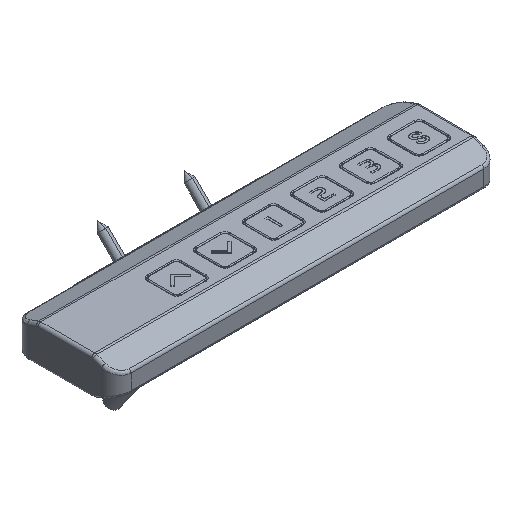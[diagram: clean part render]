
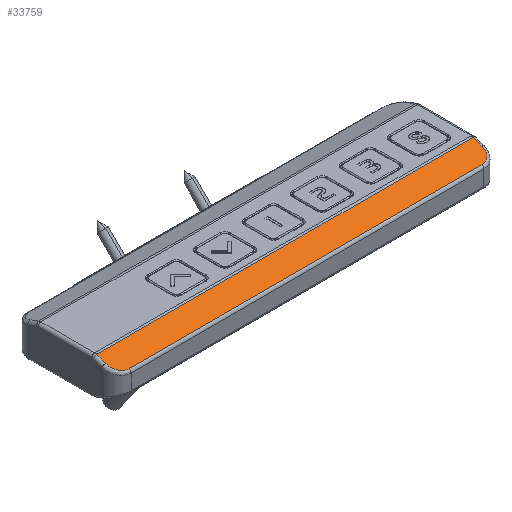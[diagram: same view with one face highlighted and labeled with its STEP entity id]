
A CAD part, isometric view. The second image highlights one B-rep face of the part: STEP entity #33759.
In plain terms, the highlighted planar face has unit normal (0, -0.351, 0.936).
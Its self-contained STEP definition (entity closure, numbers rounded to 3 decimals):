
#7658=DIRECTION('',(1.,0.,0.));
#7659=VECTOR('',#7658,120.);
#7660=CARTESIAN_POINT('',(-60.,-16.851,
12.243));
#7661=LINE('',#7660,#7659);
#7849=DIRECTION('',(0.,-0.936,-0.351));
#7850=VECTOR('',#7849,3.216);
#7851=CARTESIAN_POINT('',(64.,-9.84,14.873));
#7852=LINE('',#7851,#7850);
#7853=CARTESIAN_POINT('',(64.,-12.851,13.743));
#7854=CARTESIAN_POINT('',(64.,-13.36,13.552));
#7855=CARTESIAN_POINT('',(63.804,-14.38,13.17));
#7856=CARTESIAN_POINT('',(62.947,-15.707,12.672));
#7857=CARTESIAN_POINT('',(61.616,-16.629,12.327));
#7858=CARTESIAN_POINT('',(60.538,-16.851,12.243));
#7859=CARTESIAN_POINT('',(60.,-16.851,12.243));
#7861=CARTESIAN_POINT('',(-60.,-16.851,
12.243));
#7862=CARTESIAN_POINT('',(-60.538,-16.851,
12.243));
#7863=CARTESIAN_POINT('',(-61.616,-16.629,
12.327));
#7864=CARTESIAN_POINT('',(-62.947,-15.707,
12.672));
#7865=CARTESIAN_POINT('',(-63.804,-14.38,
13.17));
#7866=CARTESIAN_POINT('',(-64.,-13.36,
13.552));
#7867=CARTESIAN_POINT('',(-64.,-12.851,
13.743));
#7869=DIRECTION('',(0.,0.936,0.351));
#7870=VECTOR('',#7869,3.216);
#7871=CARTESIAN_POINT('',(-64.,-12.851,
13.743));
#7872=LINE('',#7871,#7870);
#7873=DIRECTION('',(1.,0.,0.));
#7874=VECTOR('',#7873,128.);
#7875=CARTESIAN_POINT('',(-64.,-9.84,14.873));
#7876=LINE('',#7875,#7874);
#21374=CARTESIAN_POINT('',(-64.,-9.84,14.873));
#21375=VERTEX_POINT('',#21374);
#21378=CARTESIAN_POINT('',(64.,-9.84,14.873));
#21379=VERTEX_POINT('',#21378);
#21380=CARTESIAN_POINT('',(64.,-12.851,13.743));
#21381=VERTEX_POINT('',#21380);
#22595=CARTESIAN_POINT('',(-64.,-12.851,
13.743));
#22596=VERTEX_POINT('',#22595);
#22597=VERTEX_POINT('',#7859);
#22598=VERTEX_POINT('',#7861);
#33746=CARTESIAN_POINT('',(0.,-13.345,13.558));
#33747=DIRECTION('',(0.,-0.351,0.936));
#33748=DIRECTION('',(0.,0.936,0.351));
#33749=AXIS2_PLACEMENT_3D('',#33746,#33747,#33748);
#33750=PLANE('',#33749);
#33751=ORIENTED_EDGE('',*,*,#33412,.T.);
#33752=ORIENTED_EDGE('',*,*,#33462,.T.);
#33753=ORIENTED_EDGE('',*,*,#33476,.F.);
#33754=ORIENTED_EDGE('',*,*,#33526,.T.);
#33755=ORIENTED_EDGE('',*,*,#33540,.T.);
#33756=ORIENTED_EDGE('',*,*,#33739,.T.);
#33757=EDGE_LOOP('',(#33751,#33752,#33753,#33754,#33755,#33756));
#33758=FACE_OUTER_BOUND('',#33757,.F.);
#33759=ADVANCED_FACE('',(#33758),#33750,.T.);
#7860=B_SPLINE_CURVE_WITH_KNOTS('',3,(#7853,#7854,#7855,#7856,#7857,#7858,
#7859),.UNSPECIFIED.,.F.,.F.,(4,1,1,1,4),(0.,0.25,0.5,0.75,1.),
.UNSPECIFIED.);
#7868=B_SPLINE_CURVE_WITH_KNOTS('',3,(#7861,#7862,#7863,#7864,#7865,#7866,
#7867),.UNSPECIFIED.,.F.,.F.,(4,1,1,1,4),(0.,0.25,0.5,0.75,1.),
.UNSPECIFIED.);
#33412=EDGE_CURVE('',#21379,#21381,#7852,.T.);
#33462=EDGE_CURVE('',#21381,#22597,#7860,.T.);
#33476=EDGE_CURVE('',#22598,#22597,#7661,.T.);
#33526=EDGE_CURVE('',#22598,#22596,#7868,.T.);
#33540=EDGE_CURVE('',#22596,#21375,#7872,.T.);
#33739=EDGE_CURVE('',#21375,#21379,#7876,.T.);
